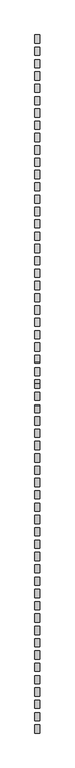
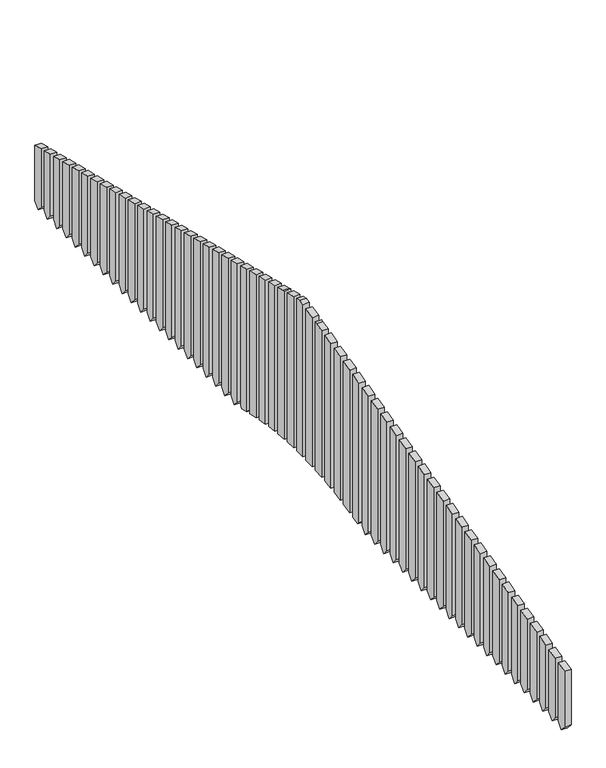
"""IFC4 building model written with IfcOpenShell, lengths in millimetres: proxy geometry, Modelos genéricos 226 : Modelos genéricos 225."""

from ifc_helpers import new_model, si_unit, point, frame, frame_2d, origin, place, context, project, spatial, polyline, circle_curve, trimmed, segment, composite_curve, outline, extrude, source, transform, mapped, element, save


def generic_models_80af4aff(model_context):
    return source(origin(), model_context, "Body", "SweptSolid", [
        extrude(outline(polyline([(6198.6238165, 3414.9077508), (6198.6238165, 2870.0), (6148.6238165, 2811.0), (6098.6238165, 2870.0), (6098.6238165, 3439.8405511), (6198.6238165, 3414.9077508)])), frame((13102.1855645, 0.0, 0.0), z_axis=(1.0, 0.0, 0.0), x_axis=(0.0, 1.0, 0.0)), (0.0, 0.0, 1.0), 60.0),
        extrude(outline(polyline([(6048.6238165, 3452.3069512), (6048.6238165, 2870.0), (5998.6238165, 2811.0), (5948.6238165, 2870.0), (5948.6238165, 3477.2397515), (6048.6238165, 3452.3069512)])), frame((13102.1855645, 0.0, 0.0), z_axis=(1.0, 0.0, 0.0), x_axis=(0.0, 1.0, 0.0)), (0.0, 0.0, 1.0), 60.0),
        extrude(outline(polyline([(5898.6238165, 3489.7061516), (5898.6238165, 2870.0), (5848.6238165, 2811.0), (5798.6238165, 2870.0), (5798.6238165, 3514.6389519), (5898.6238165, 3489.7061516)])), frame((13102.1855645, 0.0, 0.0), z_axis=(1.0, 0.0, 0.0), x_axis=(0.0, 1.0, 0.0)), (0.0, 0.0, 1.0), 60.0),
        extrude(outline(polyline([(5748.6238165, 3527.1053521), (5748.6238165, 2870.0), (5698.6238165, 2811.0), (5648.6238165, 2870.0), (5648.6238165, 3552.0381524), (5748.6238165, 3527.1053521)])), frame((13102.1855645, 0.0, 0.0), z_axis=(1.0, 0.0, 0.0), x_axis=(0.0, 1.0, 0.0)), (0.0, 0.0, 1.0), 60.0),
        extrude(outline(polyline([(5598.6238165, 3564.5045525), (5598.6238165, 2870.0), (5548.6238165, 2811.0), (5498.6238165, 2870.0), (5498.6238165, 3589.4373528), (5598.6238165, 3564.5045525)])), frame((13102.1855645, 0.0, 0.0), z_axis=(1.0, 0.0, 0.0), x_axis=(0.0, 1.0, 0.0)), (0.0, 0.0, 1.0), 60.0),
        extrude(outline(polyline([(5448.6238165, 3601.9037529), (5448.6238165, 2870.0), (5398.6238165, 2811.0), (5348.6238165, 2870.0), (5348.6238165, 3626.8365532), (5448.6238165, 3601.9037529)])), frame((13102.1855645, 0.0, 0.0), z_axis=(1.0, 0.0, 0.0), x_axis=(0.0, 1.0, 0.0)), (0.0, 0.0, 1.0), 60.0),
        extrude(outline(polyline([(5298.6238165, 3639.3029533), (5298.6238165, 2870.0), (5248.6238165, 2811.0), (5198.6238165, 2870.0), (5198.6238165, 3664.2357536), (5298.6238165, 3639.3029533)])), frame((13102.1855645, 0.0, 0.0), z_axis=(1.0, 0.0, 0.0), x_axis=(0.0, 1.0, 0.0)), (0.0, 0.0, 1.0), 60.0),
        extrude(outline(polyline([(5148.6238165, 3676.7021538), (5148.6238165, 2870.0), (5098.6238165, 2811.0), (5048.6238165, 2870.0), (5048.6238165, 3701.6349541), (5148.6238165, 3676.7021538)])), frame((13102.1855645, 0.0, 0.0), z_axis=(1.0, 0.0, 0.0), x_axis=(0.0, 1.0, 0.0)), (0.0, 0.0, 1.0), 60.0),
        extrude(outline(polyline([(4998.6238165, 3714.1013542), (4998.6238165, 2870.0), (4948.6238165, 2811.0), (4898.6238165, 2870.0), (4898.6238165, 3739.0341545), (4998.6238165, 3714.1013542)])), frame((13102.1855645, 0.0, 0.0), z_axis=(1.0, 0.0, 0.0), x_axis=(0.0, 1.0, 0.0)), (0.0, 0.0, 1.0), 60.0),
        extrude(outline(polyline([(4848.6238165, 3751.5005546), (4848.6238165, 2870.0), (4798.6238165, 2811.0), (4748.6238165, 2870.0), (4748.6238165, 3776.4333549), (4848.6238165, 3751.5005546)])), frame((13102.1855645, 0.0, 0.0), z_axis=(1.0, 0.0, 0.0), x_axis=(0.0, 1.0, 0.0)), (0.0, 0.0, 1.0), 60.0),
        extrude(outline(polyline([(4698.6238165, 3788.8997551), (4698.6238165, 2870.0), (4648.6238165, 2811.0), (4598.6238165, 2870.0), (4598.6238165, 3813.8325553), (4698.6238165, 3788.8997551)])), frame((13102.1855645, 0.0, 0.0), z_axis=(1.0, 0.0, 0.0), x_axis=(0.0, 1.0, 0.0)), (0.0, 0.0, 1.0), 60.0),
        extrude(outline(polyline([(4548.6238165, 3826.2989555), (4548.6238165, 2870.0), (4498.6238165, 2811.0), (4448.6238165, 2870.0), (4448.6238165, 3851.2317558), (4548.6238165, 3826.2989555)])), frame((13102.1855645, 0.0, 0.0), z_axis=(1.0, 0.0, 0.0), x_axis=(0.0, 1.0, 0.0)), (0.0, 0.0, 1.0), 60.0),
        extrude(outline(polyline([(4398.6238165, 3863.6981559), (4398.6238165, 2870.0), (4348.6238165, 2811.0), (4298.6238165, 2870.0), (4298.6238165, 3888.6309562), (4398.6238165, 3863.6981559)])), frame((13102.1855645, 0.0, 0.0), z_axis=(1.0, 0.0, 0.0), x_axis=(0.0, 1.0, 0.0)), (0.0, 0.0, 1.0), 60.0),
        extrude(outline(polyline([(4248.6238165, 3901.0973563), (4248.6238165, 2870.0), (4198.6238165, 2811.0), (4148.6238165, 2870.0), (4148.6238165, 3926.0301566), (4248.6238165, 3901.0973563)])), frame((13102.1855645, 0.0, 0.0), z_axis=(1.0, 0.0, 0.0), x_axis=(0.0, 1.0, 0.0)), (0.0, 0.0, 1.0), 60.0),
        extrude(outline(polyline([(4098.6238165, 3938.4965568), (4098.6238165, 2870.0), (4048.6238165, 2811.0), (3998.6238165, 2870.0), (3998.6238165, 3963.429357), (4098.6238165, 3938.4965568)])), frame((13102.1855645, 0.0, 0.0), z_axis=(1.0, 0.0, 0.0), x_axis=(0.0, 1.0, 0.0)), (0.0, 0.0, 1.0), 60.0),
        extrude(outline(polyline([(3948.6238165, 3975.8957572), (3948.6238165, 2870.0), (3898.6238165, 2811.0), (3848.6238165, 2870.0), (3848.6238165, 4000.8285575), (3948.6238165, 3975.8957572)])), frame((13102.1855645, 0.0, 0.0), z_axis=(1.0, 0.0, 0.0), x_axis=(0.0, 1.0, 0.0)), (0.0, 0.0, 1.0), 60.0),
        extrude(outline(polyline([(3798.6238165, 4013.2949576), (3798.6238165, 2870.0), (3748.6238165, 2811.0), (3698.6238165, 2870.0), (3698.6238165, 4038.2277579), (3798.6238165, 4013.2949576)])), frame((13102.1855645, 0.0, 0.0), z_axis=(1.0, 0.0, 0.0), x_axis=(0.0, 1.0, 0.0)), (0.0, 0.0, 1.0), 60.0),
        extrude(outline(polyline([(3648.6238165, 4050.694158), (3648.6238165, 2870.0), (3598.6238165, 2811.0), (3548.6238165, 2870.0), (3548.6238165, 4075.6269583), (3648.6238165, 4050.694158)])), frame((13102.1855645, 0.0, 0.0), z_axis=(1.0, 0.0, 0.0), x_axis=(0.0, 1.0, 0.0)), (0.0, 0.0, 1.0), 60.0),
        extrude(outline(polyline([(3498.6238165, 4088.0933585), (3498.6238165, 2870.0), (3448.6238165, 2811.0), (3398.6238165, 2870.0), (3398.6238165, 4113.0261587), (3498.6238165, 4088.0933585)])), frame((13102.1855645, 0.0, 0.0), z_axis=(1.0, 0.0, 0.0), x_axis=(0.0, 1.0, 0.0)), (0.0, 0.0, 1.0), 60.0),
        extrude(outline(polyline([(3348.6238165, 4125.4925589), (3348.6238165, 2870.0), (3298.6238165, 2811.0), (3248.6238165, 2870.0), (3248.6238165, 4150.4253592), (3348.6238165, 4125.4925589)])), frame((13102.1855645, 0.0, 0.0), z_axis=(1.0, 0.0, 0.0), x_axis=(0.0, 1.0, 0.0)), (0.0, 0.0, 1.0), 60.0),
        extrude(outline(polyline([(3198.6238165, 4162.8917593), (3198.6238165, 2870.0), (3148.6238165, 2811.0), (3098.6238165, 2870.0), (3098.6238165, 4187.8245596), (3198.6238165, 4162.8917593)])), frame((13102.1855645, 0.0, 0.0), z_axis=(1.0, 0.0, 0.0), x_axis=(0.0, 1.0, 0.0)), (0.0, 0.0, 1.0), 60.0),
        extrude(outline(polyline([(3048.6238165, 4200.2909597), (3048.6238165, 2870.0), (2998.6238165, 2811.0), (2948.6238165, 2870.0), (2948.6238165, 4225.22376), (3048.6238165, 4200.2909597)])), frame((13102.1855645, 0.0, 0.0), z_axis=(1.0, 0.0, 0.0), x_axis=(0.0, 1.0, 0.0)), (0.0, 0.0, 1.0), 60.0),
        extrude(outline(composite_curve([segment(polyline([(2898.6238165, 4237.6901602), (2898.6238165, 2870.0), (2878.2729291, 2845.9859529)]), True, "CONTINUOUS"), segment(trimmed(circle_curve(frame_2d((1948.6238165, -576.4811321)), 3546.4811321), [point((2878.2729291, 2845.9859529))], [point((2802.2352676, 2865.7384877))], True, "CARTESIAN"), True, "CONTINUOUS"), segment(polyline([(2802.2352676, 2865.7384877), (2798.6238165, 2870.0), (2798.6238165, 4262.6229605), (2898.6238165, 4237.6901602)]), True, "CONTINUOUS")], self_intersect=False)), frame((13102.1855645, 0.0, 0.0), z_axis=(1.0, 0.0, 0.0), x_axis=(0.0, 1.0, 0.0)), (0.0, 0.0, 1.0), 60.0),
        extrude(outline(composite_curve([segment(polyline([(2748.6238165, 4275.0893606), (2748.6238165, 2878.591721)]), True, "CONTINUOUS"), segment(trimmed(circle_curve(frame_2d((1948.6238165, -576.4811321)), 3546.4811321), [point((2748.6238165, 2878.591721))], [point((2648.6238165, 2900.2311684))], True, "CARTESIAN"), True, "CONTINUOUS"), segment(polyline([(2648.6238165, 2900.2311684), (2648.6238165, 4300.0221609), (2748.6238165, 4275.0893606)]), True, "CONTINUOUS")], self_intersect=False)), frame((13102.1855645, 0.0, 0.0), z_axis=(1.0, 0.0, 0.0), x_axis=(0.0, 1.0, 0.0)), (0.0, 0.0, 1.0), 60.0),
        extrude(outline(composite_curve([segment(polyline([(2598.6238165, 4312.488561), (2598.6238165, 2909.9251007)]), True, "CONTINUOUS"), segment(trimmed(circle_curve(frame_2d((1948.6238165, -576.4811321)), 3546.4811321), [point((2598.6238165, 2909.9251007))], [point((2498.6238165, 2927.0925321))], True, "CARTESIAN"), True, "CONTINUOUS"), segment(polyline([(2498.6238165, 2927.0925321), (2498.6238165, 4337.4213613), (2598.6238165, 4312.488561)]), True, "CONTINUOUS")], self_intersect=False)), frame((13102.1855645, 0.0, 0.0), z_axis=(1.0, 0.0, 0.0), x_axis=(0.0, 1.0, 0.0)), (0.0, 0.0, 1.0), 60.0),
        extrude(outline(composite_curve([segment(polyline([(2448.6238165, 4349.8877615), (2448.6238165, 2934.576888)]), True, "CONTINUOUS"), segment(trimmed(circle_curve(frame_2d((1948.6238165, -576.4811321)), 3546.4811321), [point((2448.6238165, 2934.576888))], [point((2348.6238165, 2947.3702297))], True, "CARTESIAN"), True, "CONTINUOUS"), segment(polyline([(2348.6238165, 2947.3702297), (2348.6238165, 4374.8205617), (2448.6238165, 4349.8877615)]), True, "CONTINUOUS")], self_intersect=False)), frame((13102.1855645, 0.0, 0.0), z_axis=(1.0, 0.0, 0.0), x_axis=(0.0, 1.0, 0.0)), (0.0, 0.0, 1.0), 60.0),
        extrude(outline(composite_curve([segment(polyline([(2298.6238165, 4387.2869619), (2298.6238165, 2952.6871014)]), True, "CONTINUOUS"), segment(trimmed(circle_curve(frame_2d((1948.6238165, -576.4811321)), 3546.4811321), [point((2298.6238165, 2952.6871014))], [point((2198.6238165, 2961.177475))], True, "CARTESIAN"), True, "CONTINUOUS"), segment(polyline([(2198.6238165, 2961.177475), (2198.6238165, 4412.2197622), (2217.9004531, 4407.4135568), (2298.6238165, 4387.2869619)]), True, "CONTINUOUS")], self_intersect=False)), frame((13102.1855645, 0.0, 0.0), z_axis=(1.0, 0.0, 0.0), x_axis=(0.0, 1.0, 0.0)), (0.0, 0.0, 1.0), 60.0),
        extrude(outline(composite_curve([segment(polyline([(2148.6238165, 4424.6861623), (2148.6238165, 2964.3561164)]), True, "CONTINUOUS"), segment(trimmed(circle_curve(frame_2d((1948.6238165, -576.4811321)), 3546.4811321), [point((2148.6238165, 2964.3561164))], [point((2048.6238165, 2968.5898715))], True, "CARTESIAN"), True, "CONTINUOUS"), segment(polyline([(2048.6238165, 2968.5898715), (2048.6238165, 4449.6189626), (2148.6238165, 4424.6861623)]), True, "CONTINUOUS")], self_intersect=False)), frame((13102.1855645, 0.0, 0.0), z_axis=(1.0, 0.0, 0.0), x_axis=(0.0, 1.0, 0.0)), (0.0, 0.0, 1.0), 60.0),
        extrude(outline(polyline([(-2301.3761835, 3414.9077508), (-2201.3761835, 3439.8405511), (-2201.3761835, 2870.0), (-2251.3761835, 2811.0), (-2301.3761835, 2870.0), (-2301.3761835, 3414.9077508)])), frame((13102.1855645, 0.0, 0.0), z_axis=(1.0, 0.0, 0.0), x_axis=(0.0, 1.0, 0.0)), (0.0, 0.0, 1.0), 60.0),
        extrude(outline(polyline([(-2151.3761835, 3452.3069512), (-2051.3761835, 3477.2397515), (-2051.3761835, 2870.0), (-2101.3761835, 2811.0), (-2151.3761835, 2870.0), (-2151.3761835, 3452.3069512)])), frame((13102.1855645, 0.0, 0.0), z_axis=(1.0, 0.0, 0.0), x_axis=(0.0, 1.0, 0.0)), (0.0, 0.0, 1.0), 60.0),
        extrude(outline(polyline([(-2001.3761835, 3489.7061516), (-1901.3761835, 3514.6389519), (-1901.3761835, 2870.0), (-1951.3761835, 2811.0), (-2001.3761835, 2870.0), (-2001.3761835, 3489.7061516)])), frame((13102.1855645, 0.0, 0.0), z_axis=(1.0, 0.0, 0.0), x_axis=(0.0, 1.0, 0.0)), (0.0, 0.0, 1.0), 60.0),
        extrude(outline(polyline([(-1851.3761835, 3527.1053521), (-1751.3761835, 3552.0381524), (-1751.3761835, 2870.0), (-1801.3761835, 2811.0), (-1851.3761835, 2870.0), (-1851.3761835, 3527.1053521)])), frame((13102.1855645, 0.0, 0.0), z_axis=(1.0, 0.0, 0.0), x_axis=(0.0, 1.0, 0.0)), (0.0, 0.0, 1.0), 60.0),
        extrude(outline(polyline([(-1701.3761835, 3564.5045525), (-1601.3761835, 3589.4373528), (-1601.3761835, 2870.0), (-1651.3761835, 2811.0), (-1701.3761835, 2870.0), (-1701.3761835, 3564.5045525)])), frame((13102.1855645, 0.0, 0.0), z_axis=(1.0, 0.0, 0.0), x_axis=(0.0, 1.0, 0.0)), (0.0, 0.0, 1.0), 60.0),
        extrude(outline(polyline([(-1551.3761835, 3601.9037529), (-1451.3761835, 3626.8365532), (-1451.3761835, 2870.0), (-1501.3761835, 2811.0), (-1551.3761835, 2870.0), (-1551.3761835, 3601.9037529)])), frame((13102.1855645, 0.0, 0.0), z_axis=(1.0, 0.0, 0.0), x_axis=(0.0, 1.0, 0.0)), (0.0, 0.0, 1.0), 60.0),
        extrude(outline(polyline([(-1401.3761835, 3639.3029533), (-1301.3761835, 3664.2357536), (-1301.3761835, 2870.0), (-1351.3761835, 2811.0), (-1401.3761835, 2870.0), (-1401.3761835, 3639.3029533)])), frame((13102.1855645, 0.0, 0.0), z_axis=(1.0, 0.0, 0.0), x_axis=(0.0, 1.0, 0.0)), (0.0, 0.0, 1.0), 60.0),
        extrude(outline(polyline([(-1251.3761835, 3676.7021538), (-1151.3761835, 3701.6349541), (-1151.3761835, 2870.0), (-1201.3761835, 2811.0), (-1251.3761835, 2870.0), (-1251.3761835, 3676.7021538)])), frame((13102.1855645, 0.0, 0.0), z_axis=(1.0, 0.0, 0.0), x_axis=(0.0, 1.0, 0.0)), (0.0, 0.0, 1.0), 60.0),
        extrude(outline(polyline([(-1101.3761835, 3714.1013542), (-1001.3761835, 3739.0341545), (-1001.3761835, 2870.0), (-1051.3761835, 2811.0), (-1101.3761835, 2870.0), (-1101.3761835, 3714.1013542)])), frame((13102.1855645, 0.0, 0.0), z_axis=(1.0, 0.0, 0.0), x_axis=(0.0, 1.0, 0.0)), (0.0, 0.0, 1.0), 60.0),
        extrude(outline(polyline([(-951.3761835, 3751.5005546), (-851.3761835, 3776.4333549), (-851.3761835, 2870.0), (-901.3761835, 2811.0), (-951.3761835, 2870.0), (-951.3761835, 3751.5005546)])), frame((13102.1855645, 0.0, 0.0), z_axis=(1.0, 0.0, 0.0), x_axis=(0.0, 1.0, 0.0)), (0.0, 0.0, 1.0), 60.0),
        extrude(outline(polyline([(-801.3761835, 3788.8997551), (-701.3761835, 3813.8325553), (-701.3761835, 2870.0), (-751.3761835, 2811.0), (-801.3761835, 2870.0), (-801.3761835, 3788.8997551)])), frame((13102.1855645, 0.0, 0.0), z_axis=(1.0, 0.0, 0.0), x_axis=(0.0, 1.0, 0.0)), (0.0, 0.0, 1.0), 60.0),
        extrude(outline(polyline([(-651.3761835, 3826.2989555), (-551.3761835, 3851.2317558), (-551.3761835, 2870.0), (-601.3761835, 2811.0), (-651.3761835, 2870.0), (-651.3761835, 3826.2989555)])), frame((13102.1855645, 0.0, 0.0), z_axis=(1.0, 0.0, 0.0), x_axis=(0.0, 1.0, 0.0)), (0.0, 0.0, 1.0), 60.0),
        extrude(outline(polyline([(-501.3761835, 3863.6981559), (-401.3761835, 3888.6309562), (-401.3761835, 2870.0), (-451.3761835, 2811.0), (-501.3761835, 2870.0), (-501.3761835, 3863.6981559)])), frame((13102.1855645, 0.0, 0.0), z_axis=(1.0, 0.0, 0.0), x_axis=(0.0, 1.0, 0.0)), (0.0, 0.0, 1.0), 60.0),
        extrude(outline(polyline([(-351.3761835, 3901.0973563), (-251.3761835, 3926.0301566), (-251.3761835, 2870.0), (-301.3761835, 2811.0), (-351.3761835, 2870.0), (-351.3761835, 3901.0973563)])), frame((13102.1855645, 0.0, 0.0), z_axis=(1.0, 0.0, 0.0), x_axis=(0.0, 1.0, 0.0)), (0.0, 0.0, 1.0), 60.0),
        extrude(outline(polyline([(-201.3761835, 3938.4965568), (-101.3761835, 3963.429357), (-101.3761835, 2870.0), (-151.3761835, 2811.0), (-201.3761835, 2870.0), (-201.3761835, 3938.4965568)])), frame((13102.1855645, 0.0, 0.0), z_axis=(1.0, 0.0, 0.0), x_axis=(0.0, 1.0, 0.0)), (0.0, 0.0, 1.0), 60.0),
        extrude(outline(polyline([(-51.3761835, 3975.8957572), (48.6238165, 4000.8285575), (48.6238165, 2870.0), (-1.3761835, 2811.0), (-51.3761835, 2870.0), (-51.3761835, 3975.8957572)])), frame((13102.1855645, 0.0, 0.0), z_axis=(1.0, 0.0, 0.0), x_axis=(0.0, 1.0, 0.0)), (0.0, 0.0, 1.0), 60.0),
        extrude(outline(polyline([(98.6238165, 4013.2949576), (198.6238165, 4038.2277579), (198.6238165, 2870.0), (148.6238165, 2811.0), (98.6238165, 2870.0), (98.6238165, 4013.2949576)])), frame((13102.1855645, 0.0, 0.0), z_axis=(1.0, 0.0, 0.0), x_axis=(0.0, 1.0, 0.0)), (0.0, 0.0, 1.0), 60.0),
        extrude(outline(polyline([(248.6238165, 4050.694158), (348.6238165, 4075.6269583), (348.6238165, 2870.0), (298.6238165, 2811.0), (248.6238165, 2870.0), (248.6238165, 4050.694158)])), frame((13102.1855645, 0.0, 0.0), z_axis=(1.0, 0.0, 0.0), x_axis=(0.0, 1.0, 0.0)), (0.0, 0.0, 1.0), 60.0),
        extrude(outline(polyline([(398.6238165, 4088.0933585), (498.6238165, 4113.0261587), (498.6238165, 2870.0), (448.6238165, 2811.0), (398.6238165, 2870.0), (398.6238165, 4088.0933585)])), frame((13102.1855645, 0.0, 0.0), z_axis=(1.0, 0.0, 0.0), x_axis=(0.0, 1.0, 0.0)), (0.0, 0.0, 1.0), 60.0),
        extrude(outline(polyline([(548.6238165, 4125.4925589), (648.6238165, 4150.4253592), (648.6238165, 2870.0), (598.6238165, 2811.0), (548.6238165, 2870.0), (548.6238165, 4125.4925589)])), frame((13102.1855645, 0.0, 0.0), z_axis=(1.0, 0.0, 0.0), x_axis=(0.0, 1.0, 0.0)), (0.0, 0.0, 1.0), 60.0),
        extrude(outline(polyline([(698.6238165, 4162.8917593), (798.6238165, 4187.8245596), (798.6238165, 2870.0), (748.6238165, 2811.0), (698.6238165, 2870.0), (698.6238165, 4162.8917593)])), frame((13102.1855645, 0.0, 0.0), z_axis=(1.0, 0.0, 0.0), x_axis=(0.0, 1.0, 0.0)), (0.0, 0.0, 1.0), 60.0),
        extrude(outline(polyline([(848.6238165, 4200.2909597), (948.6238165, 4225.22376), (948.6238165, 2870.0), (898.6238165, 2811.0), (848.6238165, 2870.0), (848.6238165, 4200.2909597)])), frame((13102.1855645, 0.0, 0.0), z_axis=(1.0, 0.0, 0.0), x_axis=(0.0, 1.0, 0.0)), (0.0, 0.0, 1.0), 60.0),
        extrude(outline(composite_curve([segment(polyline([(998.6238165, 4237.6901602), (1098.6238165, 4262.6229605), (1098.6238165, 2870.0), (1095.0123654, 2865.7384877)]), True, "CONTINUOUS"), segment(trimmed(circle_curve(frame_2d((1948.6238165, -576.4811321)), 3546.4811321), [point((1095.0123654, 2865.7384877))], [point((1018.9747039, 2845.9859529))], True, "CARTESIAN"), True, "CONTINUOUS"), segment(polyline([(1018.9747039, 2845.9859529), (998.6238165, 2870.0), (998.6238165, 4237.6901602)]), True, "CONTINUOUS")], self_intersect=False)), frame((13102.1855645, 0.0, 0.0), z_axis=(1.0, 0.0, 0.0), x_axis=(0.0, 1.0, 0.0)), (0.0, 0.0, 1.0), 60.0),
        extrude(outline(composite_curve([segment(polyline([(1148.6238165, 4275.0893606), (1248.6238165, 4300.0221609), (1248.6238165, 2900.2311684)]), True, "CONTINUOUS"), segment(trimmed(circle_curve(frame_2d((1948.6238165, -576.4811321)), 3546.4811321), [point((1248.6238165, 2900.2311684))], [point((1148.6238165, 2878.591721))], True, "CARTESIAN"), True, "CONTINUOUS"), segment(polyline([(1148.6238165, 2878.591721), (1148.6238165, 4275.0893606)]), True, "CONTINUOUS")], self_intersect=False)), frame((13102.1855645, 0.0, 0.0), z_axis=(1.0, 0.0, 0.0), x_axis=(0.0, 1.0, 0.0)), (0.0, 0.0, 1.0), 60.0),
        extrude(outline(composite_curve([segment(polyline([(1298.6238165, 4312.488561), (1398.6238165, 4337.4213613), (1398.6238165, 2927.0925321)]), True, "CONTINUOUS"), segment(trimmed(circle_curve(frame_2d((1948.6238165, -576.4811321)), 3546.4811321), [point((1398.6238165, 2927.0925321))], [point((1298.6238165, 2909.9251007))], True, "CARTESIAN"), True, "CONTINUOUS"), segment(polyline([(1298.6238165, 2909.9251007), (1298.6238165, 4312.488561)]), True, "CONTINUOUS")], self_intersect=False)), frame((13102.1855645, 0.0, 0.0), z_axis=(1.0, 0.0, 0.0), x_axis=(0.0, 1.0, 0.0)), (0.0, 0.0, 1.0), 60.0),
        extrude(outline(composite_curve([segment(polyline([(1448.6238165, 4349.8877615), (1548.6238165, 4374.8205617), (1548.6238165, 2947.3702297)]), True, "CONTINUOUS"), segment(trimmed(circle_curve(frame_2d((1948.6238165, -576.4811321)), 3546.4811321), [point((1548.6238165, 2947.3702297))], [point((1448.6238165, 2934.576888))], True, "CARTESIAN"), True, "CONTINUOUS"), segment(polyline([(1448.6238165, 2934.576888), (1448.6238165, 4349.8877615)]), True, "CONTINUOUS")], self_intersect=False)), frame((13102.1855645, 0.0, 0.0), z_axis=(1.0, 0.0, 0.0), x_axis=(0.0, 1.0, 0.0)), (0.0, 0.0, 1.0), 60.0),
        extrude(outline(composite_curve([segment(polyline([(1598.6238165, 4387.2869619), (1679.3471798, 4407.4135568), (1698.6238165, 4412.2197622), (1698.6238165, 2961.177475)]), True, "CONTINUOUS"), segment(trimmed(circle_curve(frame_2d((1948.6238165, -576.4811321)), 3546.4811321), [point((1698.6238165, 2961.177475))], [point((1598.6238165, 2952.6871014))], True, "CARTESIAN"), True, "CONTINUOUS"), segment(polyline([(1598.6238165, 2952.6871014), (1598.6238165, 4387.2869619)]), True, "CONTINUOUS")], self_intersect=False)), frame((13102.1855645, 0.0, 0.0), z_axis=(1.0, 0.0, 0.0), x_axis=(0.0, 1.0, 0.0)), (0.0, 0.0, 1.0), 60.0),
        extrude(outline(composite_curve([segment(polyline([(1748.6238165, 4424.6861623), (1848.6238165, 4449.6189626), (1848.6238165, 2968.5898715)]), True, "CONTINUOUS"), segment(trimmed(circle_curve(frame_2d((1948.6238165, -576.4811321)), 3546.4811321), [point((1848.6238165, 2968.5898715))], [point((1748.6238165, 2964.3561164))], True, "CARTESIAN"), True, "CONTINUOUS"), segment(polyline([(1748.6238165, 2964.3561164), (1748.6238165, 4424.6861623)]), True, "CONTINUOUS")], self_intersect=False)), frame((13102.1855645, 0.0, 0.0), z_axis=(1.0, 0.0, 0.0), x_axis=(0.0, 1.0, 0.0)), (0.0, 0.0, 1.0), 60.0),
        extrude(outline(composite_curve([segment(polyline([(1898.6238165, 2969.6475204), (1898.6238165, 4462.0853627), (1948.6238165, 4474.5517629), (1998.6238165, 4462.0853627), (1998.6238165, 2969.6475204)]), True, "CONTINUOUS"), segment(trimmed(circle_curve(frame_2d((1948.6238165, -576.4811321)), 3546.4811321), [point((1998.6238165, 2969.6475204))], [point((1898.6238165, 2969.6475204))], True, "CARTESIAN"), True, "CONTINUOUS")], self_intersect=False)), frame((13102.1855645, 0.0, 0.0), z_axis=(1.0, 0.0, 0.0), x_axis=(0.0, 1.0, 0.0)), (0.0, 0.0, 1.0), 60.0),
    ])


if __name__ == "__main__":
    model = new_model("IFC4")
    model_context = context("Model", 3, world=origin())
    ifc_project = project(units=[si_unit("LENGTHUNIT", "METRE", prefix="MILLI")], contexts=[model_context])
    site = spatial("IfcSite", under=ifc_project)
    building = spatial("IfcBuilding", under=site)
    placement = place(None, origin())
    generic_models_shape = generic_models_80af4aff(model_context)
    element("IfcBuildingElementProxy", 1, Name="Modelos genéricos 226 : Modelos genéricos 225", ObjectType="Modelos genéricos 226 : Modelos genéricos 225", at=placement, inside=building, context=model_context, shape_type="MappedRepresentation", body=[
        mapped(generic_models_shape, transform((0.0, 0.0, 0.0), x_axis=(1.0, 0.0, 0.0), y_axis=(0.0, 1.0, 0.0), z_axis=(0.0, 0.0, 1.0))),
    ])
    save(model, "model.ifc")
